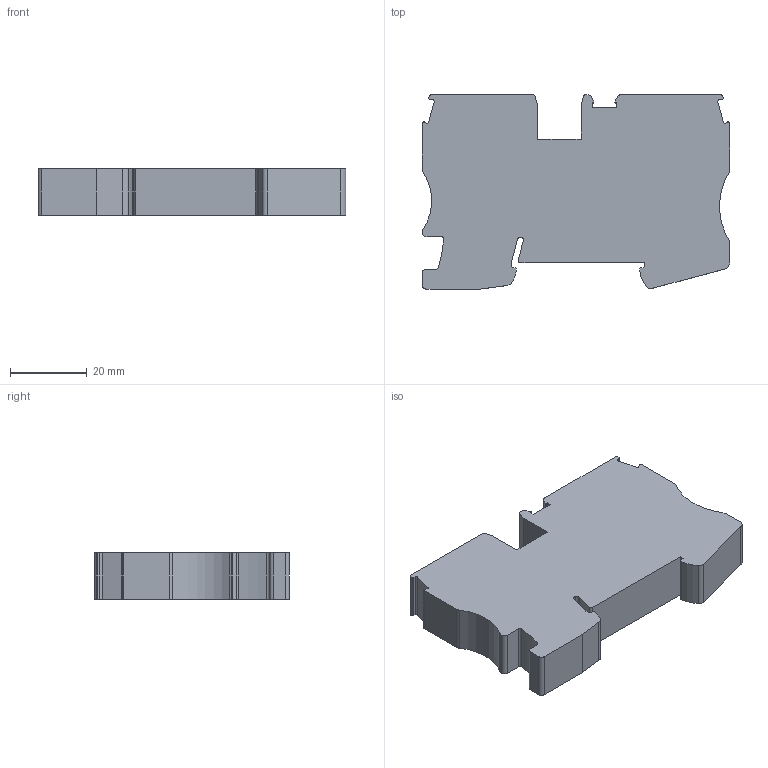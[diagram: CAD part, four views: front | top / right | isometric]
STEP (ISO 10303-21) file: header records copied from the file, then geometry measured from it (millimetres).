
FILE_DESCRIPTION(('SolidDesigner STEP Export'),'2;1');
FILE_NAME('3036165_ST_16_PE-select.stp','2014-01-28T 7:27:29',(''),(''),'Creo Elements/Direct Modeling STEP processor for AP214 (Solid Model)','Creo Elements/Direct Modeling 18.1 06-May-2012 (C) Parametric Technology GmbH','');
FILE_SCHEMA(('AUTOMOTIVE_DESIGN { 1 0 10303 214 1 1 1 1 }'));
Length unit declared in the file: millimetre
Products named in the file (2): 3036165_ST_16_PE-select
Assembly tree (1 placements, depth 2):
  3036165_ST_16_PE-select
    3036165_ST_16_PE-select
Bounding box: 80.2 x 50.6 x 12.15 mm (x, y, z)
Volume: 40919.9 mm3; surface area: 11448.5 mm2
Topology: 1 solids, 1 shells, 142 faces, 404 edges, 270 vertices
Faces by surface type: plane 82, cylinder 60
Entity records: 5793 total; most frequent: CARTESIAN_POINT 811, ORIENTED_EDGE 808, DIRECTION 801, EDGE_CURVE 404, VECTOR 281, LINE 281, VERTEX_POINT 270, AXIS2_PLACEMENT_3D 260
